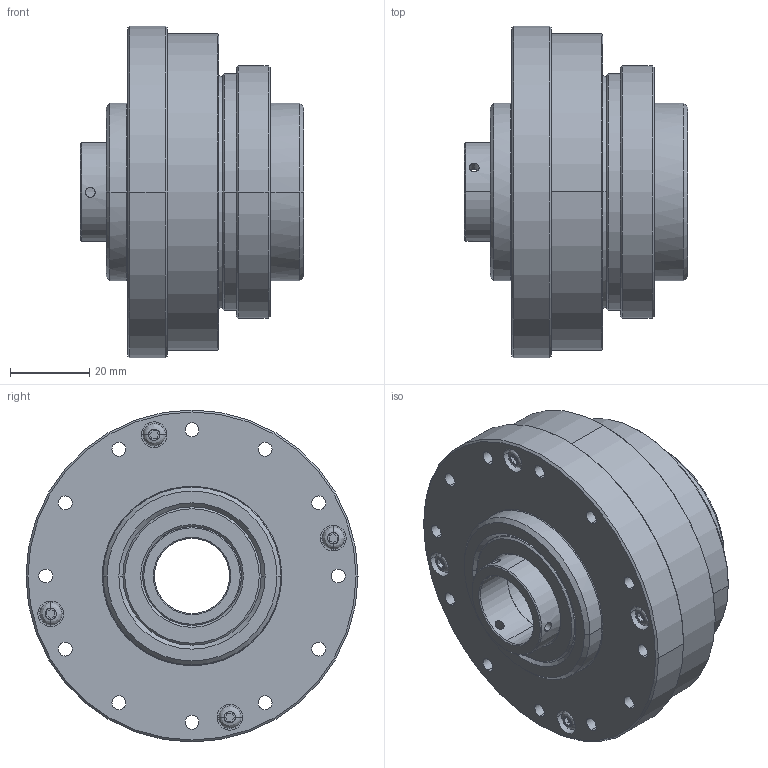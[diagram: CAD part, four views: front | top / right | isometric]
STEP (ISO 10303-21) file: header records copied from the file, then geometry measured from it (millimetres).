
FILE_DESCRIPTION(('STEP AP214'),'1');
FILE_NAME('cctmp_8C84C83E-75A4-4FD3-BD9C-5FF88004FD4E_2025_03_06_11_30_17_0982_24192..stp','2025-03-06T10:30:18',('HIWIN GmbH'),('CADClick - www.CADClick.com'),'Spatial InterOp 3D',' ','unknown authorization');
FILE_SCHEMA(('AUTOMOTIVE_DESIGN'));
Length unit declared in the file: millimetre
Products named in the file (2): DSH-17-XX-AH_FILE; 2025_03_06_11_30_17_0982
Assembly tree (1 placements, depth 2):
  DSH-17-XX-AH_FILE
    2025_03_06_11_30_17_0982
Bounding box: 56.5 x 84 x 84 mm (x, y, z)
Volume: 163749.5 mm3; surface area: 32854.4 mm2
Topology: 1 solids, 1 shells, 357 faces, 830 edges, 512 vertices
Faces by surface type: cylinder 154, plane 103, cone 80, bspline 20
Entity records: 13762 total; most frequent: CARTESIAN_POINT 2619, DIRECTION 1832, ORIENTED_EDGE 1596, EDGE_CURVE 798, AXIS2_PLACEMENT_3D 727, VERTEX_POINT 512, EDGE_LOOP 458, CIRCLE 388
